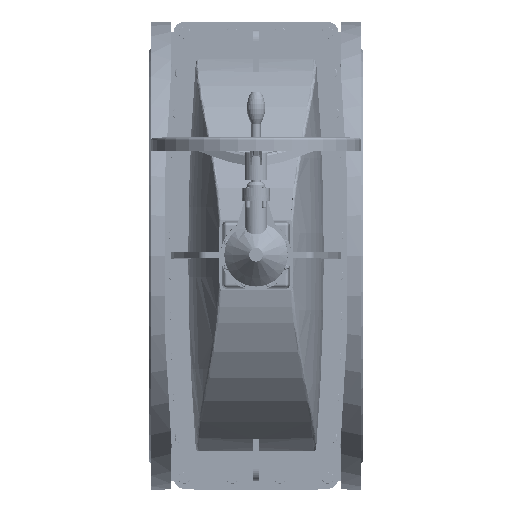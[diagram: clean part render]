
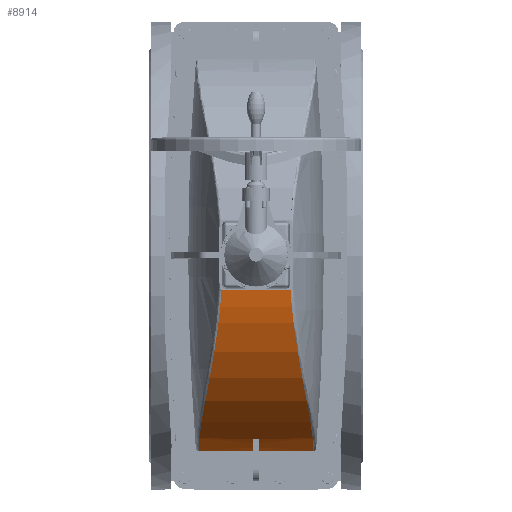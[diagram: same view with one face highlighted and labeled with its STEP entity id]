
A CAD part, top view. The second image highlights one B-rep face of the part: STEP entity #8914.
In plain terms, the highlighted cylindrical face has radius 457.333 mm (diameter 914.667 mm), a partial arc.
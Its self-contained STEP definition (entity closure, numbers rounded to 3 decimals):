
#8914=ADVANCED_FACE('',(#16780),#16782,.T.);
#16780=FACE_BOUND('',#16781,.T.);
#16781=EDGE_LOOP('',(#29848,#29849,#29850,#29851,#29852,#29853,#29854,#29855));
#16782=CYLINDRICAL_SURFACE('',#16783,457.333);
#16783=AXIS2_PLACEMENT_3D('',#16784,#16785,#16786);
#16784=CARTESIAN_POINT('',(0.,-149.505,-43.));
#16785=DIRECTION('',(0.,1.,0.));
#16786=DIRECTION('',(-0.939,0.,0.345));
#29848=ORIENTED_EDGE('',*,*,#34384,.F.);
#29849=ORIENTED_EDGE('',*,*,#34385,.F.);
#29850=ORIENTED_EDGE('',*,*,#34386,.F.);
#29851=ORIENTED_EDGE('',*,*,#34387,.F.);
#29852=ORIENTED_EDGE('',*,*,#34388,.F.);
#29853=ORIENTED_EDGE('',*,*,#34389,.T.);
#29854=ORIENTED_EDGE('',*,*,#34390,.F.);
#29855=ORIENTED_EDGE('',*,*,#34391,.F.);
#34384=EDGE_CURVE('',#38722,#38723,#38724,.F.);
#34385=EDGE_CURVE('',#38725,#38722,#38726,.T.);
#34386=EDGE_CURVE('',#38727,#38725,#38728,.T.);
#34387=EDGE_CURVE('',#38729,#38727,#38730,.T.);
#34388=EDGE_CURVE('',#38731,#38729,#38732,.F.);
#34389=EDGE_CURVE('',#38731,#38733,#38734,.T.);
#34390=EDGE_CURVE('',#38735,#38733,#38736,.T.);
#34391=EDGE_CURVE('',#38723,#38735,#38737,.T.);
#38722=VERTEX_POINT('',#53506);
#38723=VERTEX_POINT('',#53507);
#38724=CIRCLE('',#53508,457.333);
#38725=VERTEX_POINT('',#53512);
#38726=LINE('',#53513,#53514);
#38727=VERTEX_POINT('',#53516);
#38728=CIRCLE('',#53517,457.333);
#38729=VERTEX_POINT('',#53521);
#38730=LINE('',#53522,#53523);
#38731=VERTEX_POINT('',#53525);
#38732=B_SPLINE_CURVE_WITH_KNOTS('',3,
(#53526,#53527,#53528,#53529,#53530,#53531,#53532,#53533,#53534,#53535,#53536,#53537,
#53538,#53539),
.UNSPECIFIED.,.F.,.F.,
(4,1,1,1,1,1,1,1,1,1,1,4),
(0.,0.098,0.184,0.264,0.35,0.449,
0.557,0.668,0.772,0.861,0.936,
1.),
.UNSPECIFIED.);
#38733=VERTEX_POINT('',#53540);
#38734=LINE('',#53541,#53542);
#38735=VERTEX_POINT('',#53544);
#38736=B_SPLINE_CURVE_WITH_KNOTS('',3,
(#53545,#53546,#53547,#53548,#53549,#53550,#53551,#53552,#53553,#53554,#53555,#53556,
#53557,#53558),
.UNSPECIFIED.,.F.,.F.,
(4,1,1,1,1,1,1,1,1,1,1,4),
(0.,0.098,0.184,0.264,0.35,0.449,
0.557,0.668,0.772,0.861,0.936,
1.),
.UNSPECIFIED.);
#38737=LINE('',#53559,#53560);
#53506=CARTESIAN_POINT('',(-402.213,7.167,174.667));
#53507=CARTESIAN_POINT('',(-429.296,7.167,114.667));
#53508=AXIS2_PLACEMENT_3D('',#53509,#53510,#53511);
#53509=CARTESIAN_POINT('',(0.,7.167,-43.));
#53510=DIRECTION('',(0.,1.,0.));
#53511=DIRECTION('',(-0.939,0.,0.345));
#53512=CARTESIAN_POINT('',(-402.213,-7.167,174.667));
#53513=CARTESIAN_POINT('',(-402.213,-7.167,174.667));
#53514=VECTOR('',#53515,1.);
#53515=DIRECTION('',(0.,1.,0.));
#53516=CARTESIAN_POINT('',(-429.296,-7.167,114.667));
#53517=AXIS2_PLACEMENT_3D('',#53518,#53519,#53520);
#53518=CARTESIAN_POINT('',(0.,-7.167,-43.));
#53519=DIRECTION('',(0.,1.,0.));
#53520=DIRECTION('',(-0.939,0.,0.345));
#53521=CARTESIAN_POINT('',(-429.296,-124.779,114.667));
#53522=CARTESIAN_POINT('',(-429.296,-124.779,114.667));
#53523=VECTOR('',#53524,1.);
#53524=DIRECTION('',(0.,1.,0.));
#53525=CARTESIAN_POINT('',(-77.482,-75.618,407.722));
#53526=CARTESIAN_POINT('',(-429.296,-124.779,114.667));
#53527=CARTESIAN_POINT('',(-423.893,-125.315,129.379));
#53528=CARTESIAN_POINT('',(-412.294,-125.288,156.556));
#53529=CARTESIAN_POINT('',(-391.976,-123.449,193.73));
#53530=CARTESIAN_POINT('',(-369.518,-120.209,227.452));
#53531=CARTESIAN_POINT('',(-342.992,-115.58,260.594));
#53532=CARTESIAN_POINT('',(-310.308,-109.33,294.162));
#53533=CARTESIAN_POINT('',(-271.297,-101.776,326.408));
#53534=CARTESIAN_POINT('',(-228.21,-93.926,354.429));
#53535=CARTESIAN_POINT('',(-184.826,-86.993,376.177));
#53536=CARTESIAN_POINT('',(-144.748,-81.685,391.423));
#53537=CARTESIAN_POINT('',(-109.498,-78.021,401.452));
#53538=CARTESIAN_POINT('',(-87.649,-76.262,405.974));
#53539=CARTESIAN_POINT('',(-77.482,-75.618,407.722));
#53540=CARTESIAN_POINT('',(-77.482,75.618,407.722));
#53541=CARTESIAN_POINT('',(-77.482,-75.618,407.722));
#53542=VECTOR('',#53543,1.);
#53543=DIRECTION('',(0.,1.,0.));
#53544=CARTESIAN_POINT('',(-429.296,124.779,114.667));
#53545=CARTESIAN_POINT('',(-429.296,124.779,114.667));
#53546=CARTESIAN_POINT('',(-423.893,125.315,129.379));
#53547=CARTESIAN_POINT('',(-412.294,125.288,156.556));
#53548=CARTESIAN_POINT('',(-391.976,123.449,193.73));
#53549=CARTESIAN_POINT('',(-369.518,120.209,227.452));
#53550=CARTESIAN_POINT('',(-342.992,115.58,260.594));
#53551=CARTESIAN_POINT('',(-310.308,109.33,294.162));
#53552=CARTESIAN_POINT('',(-271.297,101.776,326.408));
#53553=CARTESIAN_POINT('',(-228.21,93.926,354.429));
#53554=CARTESIAN_POINT('',(-184.826,86.993,376.177));
#53555=CARTESIAN_POINT('',(-144.748,81.685,391.423));
#53556=CARTESIAN_POINT('',(-109.498,78.021,401.452));
#53557=CARTESIAN_POINT('',(-87.649,76.262,405.974));
#53558=CARTESIAN_POINT('',(-77.482,75.618,407.722));
#53559=CARTESIAN_POINT('',(-429.296,7.167,114.667));
#53560=VECTOR('',#53561,1.);
#53561=DIRECTION('',(0.,1.,0.));
